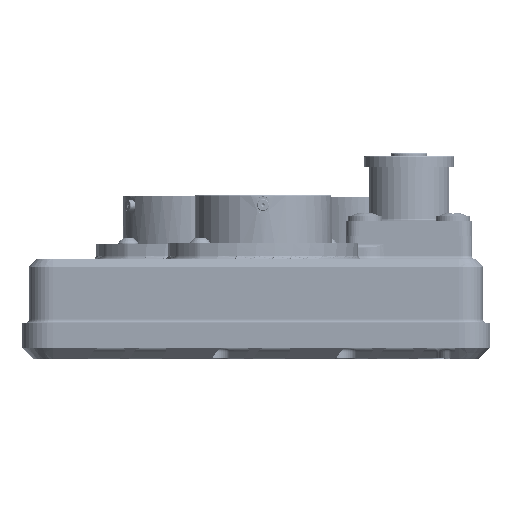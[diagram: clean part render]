
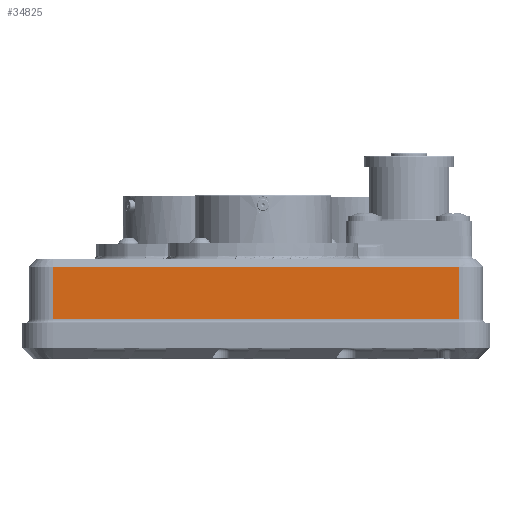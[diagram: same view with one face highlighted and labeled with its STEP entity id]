
A CAD part, left-side view. The second image highlights one B-rep face of the part: STEP entity #34825.
In plain terms, the highlighted planar face has unit normal (1, 0, 0).
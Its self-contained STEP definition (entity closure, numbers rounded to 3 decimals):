
#34798=AXIS2_PLACEMENT_3D('Plane Axis2P3D',#34795,#34796,#34797) ;
#34773=CARTESIAN_POINT('Vertex',(-28.905,116.5,1.)) ;
#34780=CARTESIAN_POINT('Vertex',(-28.905,116.5,15.65)) ;
#34783=CARTESIAN_POINT('Line Origine',(-28.905,116.5,8.325)) ;
#34795=CARTESIAN_POINT('Axis2P3D Location',(-28.905,116.5,0.)) ;
#34800=CARTESIAN_POINT('Line Origine',(-28.905,59.999,1.)) ;
#34804=CARTESIAN_POINT('Vertex',(-28.905,3.498,1.)) ;
#34807=CARTESIAN_POINT('Line Origine',(-28.905,59.999,15.65)) ;
#34811=CARTESIAN_POINT('Vertex',(-28.905,3.498,15.65)) ;
#34814=CARTESIAN_POINT('Line Origine',(-28.905,3.498,8.325)) ;
#34784=DIRECTION('Vector Direction',(0.,0.,1.)) ;
#34796=DIRECTION('Axis2P3D Direction',(-1.,0.,0.)) ;
#34797=DIRECTION('Axis2P3D XDirection',(0.,-1.,0.)) ;
#34801=DIRECTION('Vector Direction',(0.,-1.,0.)) ;
#34808=DIRECTION('Vector Direction',(0.,-1.,0.)) ;
#34815=DIRECTION('Vector Direction',(0.,0.,1.)) ;
#34785=VECTOR('Line Direction',#34784,1.) ;
#34802=VECTOR('Line Direction',#34801,1.) ;
#34809=VECTOR('Line Direction',#34808,1.) ;
#34816=VECTOR('Line Direction',#34815,1.) ;
#34820=ORIENTED_EDGE('',*,*,#34806,.T.) ;
#34821=ORIENTED_EDGE('',*,*,#34787,.T.) ;
#34822=ORIENTED_EDGE('',*,*,#34813,.F.) ;
#34823=ORIENTED_EDGE('',*,*,#34818,.F.) ;
#34825=ADVANCED_FACE('Extract.1',(#34824),#34799,.F.) ;
#34787=EDGE_CURVE('',#34774,#34781,#34786,.T.) ;
#34806=EDGE_CURVE('',#34805,#34774,#34803,.F.) ;
#34813=EDGE_CURVE('',#34812,#34781,#34810,.F.) ;
#34818=EDGE_CURVE('',#34805,#34812,#34817,.T.) ;
#34819=EDGE_LOOP('',(#34820,#34821,#34822,#34823)) ;
#34824=FACE_OUTER_BOUND('',#34819,.T.) ;
#34786=LINE('Line',#34783,#34785) ;
#34803=LINE('Line',#34800,#34802) ;
#34810=LINE('Line',#34807,#34809) ;
#34817=LINE('Line',#34814,#34816) ;
#34799=PLANE('Plane',#34798) ;
#34774=VERTEX_POINT('',#34773) ;
#34781=VERTEX_POINT('',#34780) ;
#34805=VERTEX_POINT('',#34804) ;
#34812=VERTEX_POINT('',#34811) ;
